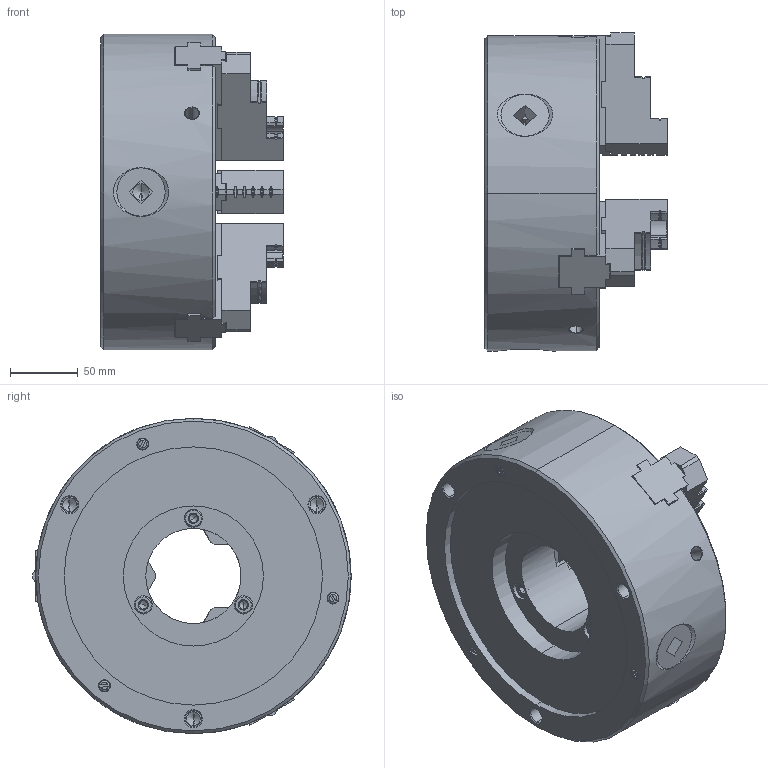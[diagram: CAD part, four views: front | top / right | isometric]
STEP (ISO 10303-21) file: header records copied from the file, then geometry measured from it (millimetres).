
FILE_DESCRIPTION (( 'STEP AP214' ), '1' );
FILE_NAME ('JN09T 61S2099208-1 ASSY.STEP', '2025-08-19T09:30:17', ( '' ), ( '' ), 'SwSTEP 2.0', 'SolidWorks 2022', '' );
FILE_SCHEMA (( 'AUTOMOTIVE_DESIGN' ));
Length unit declared in the file: millimetre
Products named in the file (5): Part2^JN09T 61S2099208-1 ASSY; JN09T 61S2099208-1 ASSY; 61S313819-6_TOP JAW; 0030112025; 61S313818-2_BASE JAW
Assembly tree (13 placements, depth 2):
  JN09T 61S2099208-1 ASSY
    61S313818-2_BASE JAW  x3
    61S313819-6_TOP JAW  x3
    0030112025  x6
    Part2^JN09T 61S2099208-1 ASSY
Bounding box: 134 x 234 x 232 mm (x, y, z)
Volume: 3229623 mm3; surface area: 300201.7 mm2
Topology: 13 solids, 13 shells, 1491 faces, 3994 edges, 2574 vertices
Faces by surface type: plane 858, cylinder 250, cone 184, bspline 182, torus 13, sphere 4
Entity records: 37826 total; most frequent: CARTESIAN_POINT 14310, ORIENTED_EDGE 5198, DIRECTION 4123, EDGE_CURVE 2599, VERTEX_POINT 1704, VECTOR 1695, LINE 1695, AXIS2_PLACEMENT_3D 1214
